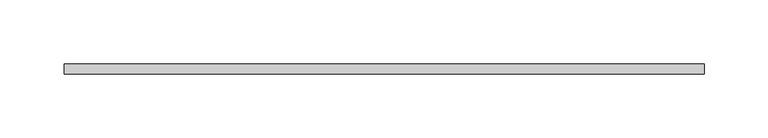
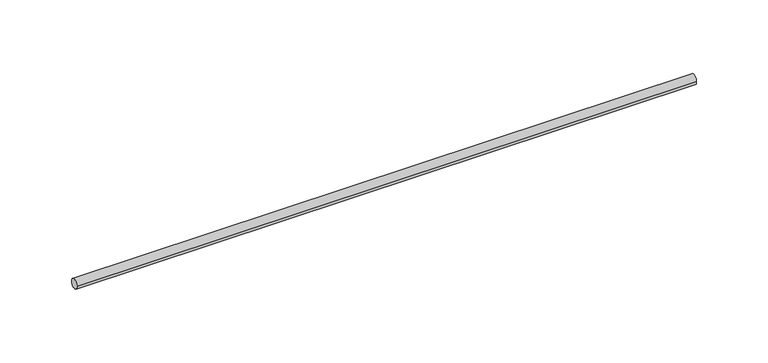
"""IFC4 building model written with IfcOpenShell, lengths in millimetres: valve geometry, Superfix Threaded Rod : Threaded Rod  Extra-  M8 x 100."""

from ifc_helpers import new_model, si_unit, point, frame, origin, origin_2d, place, context, project, spatial, circle_curve, trimmed, segment, composite_curve, outline, extrude, source, transform, mapped, element, save


def valve_8c9ea742(model_context):
    return source(origin(), model_context, "Body", "SweptSolid", [
        extrude(outline(composite_curve([segment(trimmed(circle_curve(origin_2d(), 4.0), [point((-4.0, 0.0))], [point((4.0, 0.0))], False, "CARTESIAN"), True, "CONTINUOUS"), segment(trimmed(circle_curve(origin_2d(), 4.0), [point((4.0, 0.0))], [point((-4.0, 0.0))], False, "CARTESIAN"), True, "CONTINUOUS")], self_intersect=False)), frame((0.0, 0.0, 0.0), z_axis=(1.0, 0.0, 0.0), x_axis=(0.0, 1.0, 0.0)), (0.0, 0.0, 1.0), 500.0),
    ])


if __name__ == "__main__":
    model = new_model("IFC4")
    model_context = context("Model", 3, world=origin())
    ifc_project = project(units=[si_unit("LENGTHUNIT", "METRE", prefix="MILLI")], contexts=[model_context])
    site = spatial("IfcSite", under=ifc_project)
    building = spatial("IfcBuilding", under=site)
    placement = place(None, origin())
    valve_shape = valve_8c9ea742(model_context)
    element("IfcValve", 1, ObjectType="Superfix Threaded Rod : Threaded Rod  Extra-  M8 x 100", at=placement, inside=building, context=model_context, shape_type="MappedRepresentation", body=[
        mapped(valve_shape, transform((0.0, 0.0, 0.0), x_axis=(1.0, 0.0, 0.0), y_axis=(0.0, 1.0, 0.0), z_axis=(0.0, 0.0, 1.0))),
    ])
    save(model, "model.ifc")
